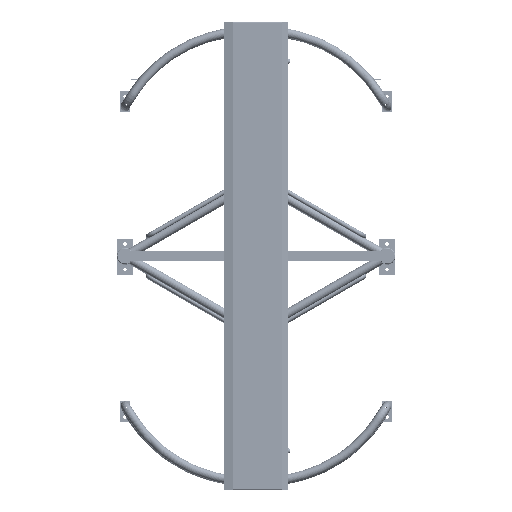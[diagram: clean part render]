
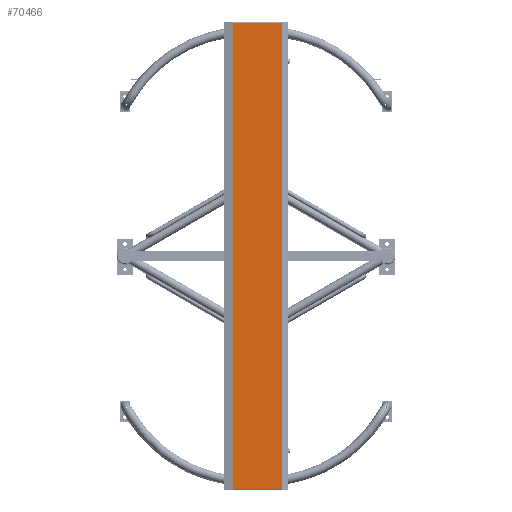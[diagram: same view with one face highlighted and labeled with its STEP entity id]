
A CAD part, top view. The second image highlights one B-rep face of the part: STEP entity #70466.
In plain terms, the highlighted planar face has unit normal (0, 0, 1).
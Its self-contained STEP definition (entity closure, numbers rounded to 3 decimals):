
#10029=LINE('',#176134,#14251);
#10086=LINE('',#176317,#14308);
#10092=LINE('',#176330,#14314);
#10094=LINE('',#176333,#14316);
#10095=LINE('',#176335,#14317);
#10096=LINE('',#176337,#14318);
#10097=LINE('',#176338,#14319);
#10098=LINE('',#176340,#14320);
#14251=VECTOR('',#102189,1000.);
#14308=VECTOR('',#102372,1000.);
#14314=VECTOR('',#102388,1000.);
#14316=VECTOR('',#102392,1000.);
#14317=VECTOR('',#102393,1000.);
#14318=VECTOR('',#102394,1000.);
#14319=VECTOR('',#102395,1000.);
#14320=VECTOR('',#102396,1000.);
#30943=ORIENTED_EDGE('',*,*,#40426,.F.);
#30944=ORIENTED_EDGE('',*,*,#40418,.T.);
#30945=ORIENTED_EDGE('',*,*,#40424,.F.);
#30946=ORIENTED_EDGE('',*,*,#40427,.T.);
#30947=ORIENTED_EDGE('',*,*,#40428,.F.);
#30948=ORIENTED_EDGE('',*,*,#40331,.T.);
#30949=ORIENTED_EDGE('',*,*,#40429,.F.);
#30950=ORIENTED_EDGE('',*,*,#40430,.T.);
#40331=EDGE_CURVE('',#47174,#47173,#10029,.T.);
#40418=EDGE_CURVE('',#47234,#47236,#10086,.T.);
#40424=EDGE_CURVE('',#47238,#47236,#10092,.T.);
#40426=EDGE_CURVE('',#47234,#47239,#10094,.T.);
#40427=EDGE_CURVE('',#47238,#47240,#10095,.T.);
#40428=EDGE_CURVE('',#47174,#47240,#10096,.T.);
#40429=EDGE_CURVE('',#47241,#47173,#10097,.T.);
#40430=EDGE_CURVE('',#47241,#47239,#10098,.T.);
#47173=VERTEX_POINT('',#176133);
#47174=VERTEX_POINT('',#176135);
#47234=VERTEX_POINT('',#176311);
#47236=VERTEX_POINT('',#176316);
#47238=VERTEX_POINT('',#176329);
#47239=VERTEX_POINT('',#176334);
#47240=VERTEX_POINT('',#176336);
#47241=VERTEX_POINT('',#176339);
#55239=EDGE_LOOP('',(#30943,#30944,#30945,#30946,#30947,#30948,#30949,#30950));
#62887=FACE_BOUND('',#55239,.T.);
#66010=PLANE('',#83303);
#70466=ADVANCED_FACE('',(#62887),#66010,.T.);
#83303=AXIS2_PLACEMENT_3D('',#176332,#102390,#102391);
#102189=DIRECTION('',(0.,-1.,0.));
#102372=DIRECTION('',(0.,1.,0.));
#102388=DIRECTION('',(1.,0.,0.));
#102390=DIRECTION('',(0.,0.,1.));
#102391=DIRECTION('',(1.,0.,0.));
#102392=DIRECTION('',(-1.,0.,0.));
#102393=DIRECTION('',(-1.,0.,0.));
#102394=DIRECTION('',(1.,0.,0.));
#102395=DIRECTION('',(-1.,0.,0.));
#102396=DIRECTION('',(1.,0.,0.));
#176133=CARTESIAN_POINT('',(-107.13,-39.5,2219.988));
#176134=CARTESIAN_POINT('',(-107.13,2165.5,2219.988));
#176135=CARTESIAN_POINT('',(-107.13,2163.5,2219.988));
#176311=CARTESIAN_POINT('',(121.491,-39.5,2219.988));
#176316=CARTESIAN_POINT('',(121.491,2163.5,2219.988));
#176317=CARTESIAN_POINT('',(121.491,-41.5,2219.988));
#176329=CARTESIAN_POINT('',(121.489,2163.5,2219.988));
#176330=CARTESIAN_POINT('',(121.489,2163.5,2219.988));
#176332=CARTESIAN_POINT('',(122.274,-41.5,2219.988));
#176333=CARTESIAN_POINT('',(-107.128,-39.5,2219.988));
#176334=CARTESIAN_POINT('',(121.489,-39.5,2219.988));
#176335=CARTESIAN_POINT('',(121.489,2163.5,2219.988));
#176336=CARTESIAN_POINT('',(-107.128,2163.5,2219.988));
#176337=CARTESIAN_POINT('',(121.489,2163.5,2219.988));
#176338=CARTESIAN_POINT('',(-107.128,-39.5,2219.988));
#176339=CARTESIAN_POINT('',(-107.128,-39.5,2219.988));
#176340=CARTESIAN_POINT('',(-107.128,-39.5,2219.988));
